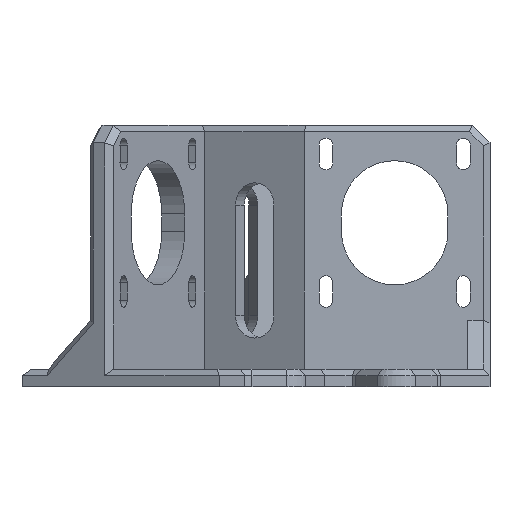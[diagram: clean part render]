
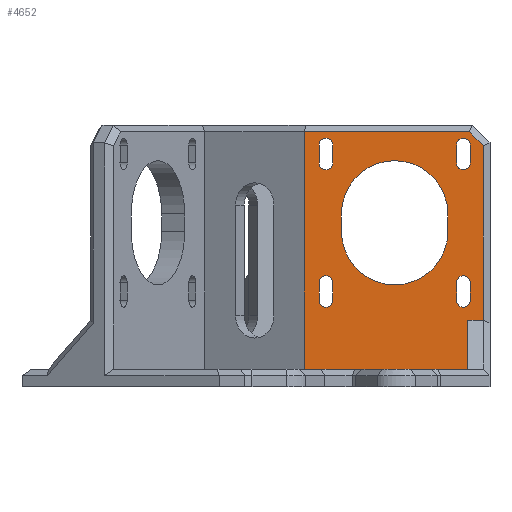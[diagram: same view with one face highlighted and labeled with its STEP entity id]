
A CAD part, left-side view. The second image highlights one B-rep face of the part: STEP entity #4652.
In plain terms, the highlighted planar face has unit normal (-1, 0, 0).
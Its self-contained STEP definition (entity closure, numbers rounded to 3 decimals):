
#125=FACE_BOUND('',#691,.T.);
#126=FACE_BOUND('',#692,.T.);
#127=FACE_BOUND('',#693,.T.);
#128=FACE_BOUND('',#694,.T.);
#129=FACE_BOUND('',#695,.T.);
#244=CIRCLE('',#4975,12.);
#245=CIRCLE('',#4976,12.);
#246=CIRCLE('',#4977,1.55);
#247=CIRCLE('',#4978,1.55);
#248=CIRCLE('',#4979,1.55);
#249=CIRCLE('',#4980,1.55);
#250=CIRCLE('',#4981,1.55);
#251=CIRCLE('',#4982,1.55);
#252=CIRCLE('',#4983,1.55);
#253=CIRCLE('',#4984,1.55);
#412=FACE_OUTER_BOUND('',#690,.T.);
#690=EDGE_LOOP('',(#3705,#3706,#3707,#3708,#3709,#3710,#3711,#3712,#3713));
#691=EDGE_LOOP('',(#3714,#3715,#3716,#3717));
#692=EDGE_LOOP('',(#3718,#3719,#3720,#3721));
#693=EDGE_LOOP('',(#3722,#3723,#3724,#3725));
#694=EDGE_LOOP('',(#3726,#3727,#3728,#3729));
#695=EDGE_LOOP('',(#3730,#3731,#3732,#3733));
#866=LINE('',#6416,#1410);
#1115=LINE('',#7063,#1659);
#1139=LINE('',#7117,#1683);
#1142=LINE('',#7123,#1686);
#1218=LINE('',#7303,#1762);
#1219=LINE('',#7305,#1763);
#1220=LINE('',#7307,#1764);
#1221=LINE('',#7309,#1765);
#1222=LINE('',#7310,#1766);
#1223=LINE('',#7315,#1767);
#1224=LINE('',#7318,#1768);
#1225=LINE('',#7323,#1769);
#1226=LINE('',#7326,#1770);
#1227=LINE('',#7331,#1771);
#1228=LINE('',#7334,#1772);
#1229=LINE('',#7337,#1773);
#1230=LINE('',#7341,#1774);
#1231=LINE('',#7345,#1775);
#1232=LINE('',#7349,#1776);
#1410=VECTOR('',#5147,10.);
#1659=VECTOR('',#5668,10.);
#1683=VECTOR('',#5716,10.);
#1686=VECTOR('',#5721,10.);
#1762=VECTOR('',#5903,10.);
#1763=VECTOR('',#5904,10.);
#1764=VECTOR('',#5905,10.);
#1765=VECTOR('',#5906,10.);
#1766=VECTOR('',#5907,10.);
#1767=VECTOR('',#5910,10.);
#1768=VECTOR('',#5913,10.);
#1769=VECTOR('',#5916,10.);
#1770=VECTOR('',#5919,10.);
#1771=VECTOR('',#5922,10.);
#1772=VECTOR('',#5925,10.);
#1773=VECTOR('',#5926,10.);
#1774=VECTOR('',#5929,10.);
#1775=VECTOR('',#5932,10.);
#1776=VECTOR('',#5935,10.);
#1954=VERTEX_POINT('',#6413);
#1955=VERTEX_POINT('',#6415);
#2192=VERTEX_POINT('',#7060);
#2193=VERTEX_POINT('',#7062);
#2207=VERTEX_POINT('',#7116);
#2209=VERTEX_POINT('',#7122);
#2253=VERTEX_POINT('',#7304);
#2254=VERTEX_POINT('',#7306);
#2255=VERTEX_POINT('',#7308);
#2256=VERTEX_POINT('',#7311);
#2257=VERTEX_POINT('',#7312);
#2258=VERTEX_POINT('',#7314);
#2259=VERTEX_POINT('',#7316);
#2260=VERTEX_POINT('',#7319);
#2261=VERTEX_POINT('',#7320);
#2262=VERTEX_POINT('',#7322);
#2263=VERTEX_POINT('',#7324);
#2264=VERTEX_POINT('',#7327);
#2265=VERTEX_POINT('',#7328);
#2266=VERTEX_POINT('',#7330);
#2267=VERTEX_POINT('',#7332);
#2268=VERTEX_POINT('',#7335);
#2269=VERTEX_POINT('',#7336);
#2270=VERTEX_POINT('',#7338);
#2271=VERTEX_POINT('',#7340);
#2272=VERTEX_POINT('',#7343);
#2273=VERTEX_POINT('',#7344);
#2274=VERTEX_POINT('',#7346);
#2275=VERTEX_POINT('',#7348);
#2375=EDGE_CURVE('',#1954,#1955,#866,.T.);
#2689=EDGE_CURVE('',#2192,#2193,#1115,.T.);
#2715=EDGE_CURVE('',#2193,#2207,#1139,.T.);
#2718=EDGE_CURVE('',#2207,#2209,#1142,.T.);
#2807=EDGE_CURVE('',#2192,#1955,#1218,.T.);
#2808=EDGE_CURVE('',#2253,#1954,#1219,.T.);
#2809=EDGE_CURVE('',#2254,#2253,#1220,.T.);
#2810=EDGE_CURVE('',#2254,#2255,#1221,.T.);
#2811=EDGE_CURVE('',#2209,#2255,#1222,.T.);
#2812=EDGE_CURVE('',#2256,#2257,#244,.T.);
#2813=EDGE_CURVE('',#2257,#2258,#1223,.T.);
#2814=EDGE_CURVE('',#2258,#2259,#245,.T.);
#2815=EDGE_CURVE('',#2259,#2256,#1224,.T.);
#2816=EDGE_CURVE('',#2260,#2261,#246,.T.);
#2817=EDGE_CURVE('',#2261,#2262,#1225,.T.);
#2818=EDGE_CURVE('',#2262,#2263,#247,.T.);
#2819=EDGE_CURVE('',#2263,#2260,#1226,.T.);
#2820=EDGE_CURVE('',#2264,#2265,#248,.T.);
#2821=EDGE_CURVE('',#2265,#2266,#1227,.T.);
#2822=EDGE_CURVE('',#2266,#2267,#249,.T.);
#2823=EDGE_CURVE('',#2267,#2264,#1228,.T.);
#2824=EDGE_CURVE('',#2268,#2269,#1229,.T.);
#2825=EDGE_CURVE('',#2269,#2270,#250,.T.);
#2826=EDGE_CURVE('',#2270,#2271,#1230,.T.);
#2827=EDGE_CURVE('',#2271,#2268,#251,.T.);
#2828=EDGE_CURVE('',#2272,#2273,#1231,.T.);
#2829=EDGE_CURVE('',#2273,#2274,#252,.T.);
#2830=EDGE_CURVE('',#2274,#2275,#1232,.T.);
#2831=EDGE_CURVE('',#2275,#2272,#253,.T.);
#3705=ORIENTED_EDGE('',*,*,#2689,.F.);
#3706=ORIENTED_EDGE('',*,*,#2807,.T.);
#3707=ORIENTED_EDGE('',*,*,#2375,.F.);
#3708=ORIENTED_EDGE('',*,*,#2808,.F.);
#3709=ORIENTED_EDGE('',*,*,#2809,.F.);
#3710=ORIENTED_EDGE('',*,*,#2810,.T.);
#3711=ORIENTED_EDGE('',*,*,#2811,.F.);
#3712=ORIENTED_EDGE('',*,*,#2718,.F.);
#3713=ORIENTED_EDGE('',*,*,#2715,.F.);
#3714=ORIENTED_EDGE('',*,*,#2812,.T.);
#3715=ORIENTED_EDGE('',*,*,#2813,.T.);
#3716=ORIENTED_EDGE('',*,*,#2814,.T.);
#3717=ORIENTED_EDGE('',*,*,#2815,.T.);
#3718=ORIENTED_EDGE('',*,*,#2816,.T.);
#3719=ORIENTED_EDGE('',*,*,#2817,.T.);
#3720=ORIENTED_EDGE('',*,*,#2818,.T.);
#3721=ORIENTED_EDGE('',*,*,#2819,.T.);
#3722=ORIENTED_EDGE('',*,*,#2820,.T.);
#3723=ORIENTED_EDGE('',*,*,#2821,.T.);
#3724=ORIENTED_EDGE('',*,*,#2822,.T.);
#3725=ORIENTED_EDGE('',*,*,#2823,.T.);
#3726=ORIENTED_EDGE('',*,*,#2824,.T.);
#3727=ORIENTED_EDGE('',*,*,#2825,.T.);
#3728=ORIENTED_EDGE('',*,*,#2826,.T.);
#3729=ORIENTED_EDGE('',*,*,#2827,.T.);
#3730=ORIENTED_EDGE('',*,*,#2828,.T.);
#3731=ORIENTED_EDGE('',*,*,#2829,.T.);
#3732=ORIENTED_EDGE('',*,*,#2830,.T.);
#3733=ORIENTED_EDGE('',*,*,#2831,.T.);
#4446=PLANE('',#4974);
#4652=ADVANCED_FACE('',(#412,#125,#126,#127,#128,#129),#4446,.F.);
#4974=AXIS2_PLACEMENT_3D('',#7302,#5901,#5902);
#4975=AXIS2_PLACEMENT_3D('',#7313,#5908,#5909);
#4976=AXIS2_PLACEMENT_3D('',#7317,#5911,#5912);
#4977=AXIS2_PLACEMENT_3D('',#7321,#5914,#5915);
#4978=AXIS2_PLACEMENT_3D('',#7325,#5917,#5918);
#4979=AXIS2_PLACEMENT_3D('',#7329,#5920,#5921);
#4980=AXIS2_PLACEMENT_3D('',#7333,#5923,#5924);
#4981=AXIS2_PLACEMENT_3D('',#7339,#5927,#5928);
#4982=AXIS2_PLACEMENT_3D('',#7342,#5930,#5931);
#4983=AXIS2_PLACEMENT_3D('',#7347,#5933,#5934);
#4984=AXIS2_PLACEMENT_3D('',#7350,#5936,#5937);
#5147=DIRECTION('',(0.,1.,0.));
#5668=DIRECTION('',(0.,-1.,0.));
#5716=DIRECTION('',(0.,-0.707,-0.707));
#5721=DIRECTION('',(0.,0.,-1.));
#5901=DIRECTION('center_axis',(1.,0.,0.));
#5902=DIRECTION('ref_axis',(0.,1.,0.));
#5903=DIRECTION('',(0.,0.,-1.));
#5904=DIRECTION('',(0.,0.,1.));
#5905=DIRECTION('',(0.,1.,0.));
#5906=DIRECTION('',(0.,0.,1.));
#5907=DIRECTION('',(0.,1.,0.));
#5908=DIRECTION('center_axis',(1.,0.,0.));
#5909=DIRECTION('ref_axis',(0.,-1.,0.));
#5910=DIRECTION('',(0.,0.,-1.));
#5911=DIRECTION('center_axis',(1.,0.,0.));
#5912=DIRECTION('ref_axis',(0.,1.,0.));
#5913=DIRECTION('',(0.,0.,1.));
#5914=DIRECTION('center_axis',(1.,0.,0.));
#5915=DIRECTION('ref_axis',(0.,-1.,0.));
#5916=DIRECTION('',(0.,0.,1.));
#5917=DIRECTION('center_axis',(1.,0.,0.));
#5918=DIRECTION('ref_axis',(0.,1.,0.));
#5919=DIRECTION('',(0.,0.,-1.));
#5920=DIRECTION('center_axis',(1.,0.,0.));
#5921=DIRECTION('ref_axis',(0.,-1.,0.));
#5922=DIRECTION('',(0.,0.,1.));
#5923=DIRECTION('center_axis',(1.,0.,0.));
#5924=DIRECTION('ref_axis',(0.,1.,0.));
#5925=DIRECTION('',(0.,0.,-1.));
#5926=DIRECTION('',(0.,0.,1.));
#5927=DIRECTION('center_axis',(1.,0.,0.));
#5928=DIRECTION('ref_axis',(0.,1.,0.));
#5929=DIRECTION('',(0.,0.,-1.));
#5930=DIRECTION('center_axis',(1.,0.,0.));
#5931=DIRECTION('ref_axis',(0.,-1.,0.));
#5932=DIRECTION('',(0.,0.,1.));
#5933=DIRECTION('center_axis',(1.,0.,0.));
#5934=DIRECTION('ref_axis',(0.,-1.,0.));
#5935=DIRECTION('',(0.,0.,-1.));
#5936=DIRECTION('center_axis',(1.,0.,0.));
#5937=DIRECTION('ref_axis',(0.,1.,0.));
#6413=CARTESIAN_POINT('',(-29.4,4.8,67.));
#6415=CARTESIAN_POINT('',(-29.4,9.664,67.));
#6416=CARTESIAN_POINT('',(-29.4,2.75,67.));
#7060=CARTESIAN_POINT('',(-29.4,9.664,120.5));
#7062=CARTESIAN_POINT('',(-29.4,-27.579,120.5));
#7063=CARTESIAN_POINT('',(-29.4,-2.46,120.5));
#7116=CARTESIAN_POINT('',(-29.4,-30.7,117.379));
#7117=CARTESIAN_POINT('',(-29.4,-42.639,105.439));
#7122=CARTESIAN_POINT('',(-29.4,-30.7,78.));
#7123=CARTESIAN_POINT('',(-29.4,-30.7,63.));
#7302=CARTESIAN_POINT('Origin',(-29.4,-27.2,63.));
#7303=CARTESIAN_POINT('',(-29.4,9.664,92.5));
#7304=CARTESIAN_POINT('',(-29.4,4.8,63.));
#7305=CARTESIAN_POINT('',(-29.4,4.8,63.));
#7306=CARTESIAN_POINT('',(-29.4,-27.2,63.));
#7307=CARTESIAN_POINT('',(-29.4,-18.05,63.));
#7308=CARTESIAN_POINT('',(-29.4,-27.2,78.));
#7309=CARTESIAN_POINT('',(-29.4,-27.2,63.));
#7310=CARTESIAN_POINT('',(-29.4,-18.05,78.));
#7311=CARTESIAN_POINT('',(-29.4,1.3,102.));
#7312=CARTESIAN_POINT('',(-29.4,-22.7,102.));
#7313=CARTESIAN_POINT('Origin',(-29.4,-10.7,102.));
#7314=CARTESIAN_POINT('',(-29.4,-22.7,98.));
#7315=CARTESIAN_POINT('',(-29.4,-22.7,82.5));
#7316=CARTESIAN_POINT('',(-29.4,1.3,98.));
#7317=CARTESIAN_POINT('Origin',(-29.4,-10.7,98.));
#7318=CARTESIAN_POINT('',(-29.4,1.3,80.5));
#7319=CARTESIAN_POINT('',(-29.4,3.25,82.5));
#7320=CARTESIAN_POINT('',(-29.4,6.35,82.5));
#7321=CARTESIAN_POINT('Origin',(-29.4,4.8,82.5));
#7322=CARTESIAN_POINT('',(-29.4,6.35,86.5));
#7323=CARTESIAN_POINT('',(-29.4,6.35,72.75));
#7324=CARTESIAN_POINT('',(-29.4,3.25,86.5));
#7325=CARTESIAN_POINT('Origin',(-29.4,4.8,86.5));
#7326=CARTESIAN_POINT('',(-29.4,3.25,74.75));
#7327=CARTESIAN_POINT('',(-29.4,-27.75,113.5));
#7328=CARTESIAN_POINT('',(-29.4,-24.65,113.5));
#7329=CARTESIAN_POINT('Origin',(-29.4,-26.2,113.5));
#7330=CARTESIAN_POINT('',(-29.4,-24.65,117.5));
#7331=CARTESIAN_POINT('',(-29.4,-24.65,88.25));
#7332=CARTESIAN_POINT('',(-29.4,-27.75,117.5));
#7333=CARTESIAN_POINT('Origin',(-29.4,-26.2,117.5));
#7334=CARTESIAN_POINT('',(-29.4,-27.75,90.25));
#7335=CARTESIAN_POINT('',(-29.4,6.35,113.5));
#7336=CARTESIAN_POINT('',(-29.4,6.35,117.5));
#7337=CARTESIAN_POINT('',(-29.4,6.35,88.25));
#7338=CARTESIAN_POINT('',(-29.4,3.25,117.5));
#7339=CARTESIAN_POINT('Origin',(-29.4,4.8,117.5));
#7340=CARTESIAN_POINT('',(-29.4,3.25,113.5));
#7341=CARTESIAN_POINT('',(-29.4,3.25,90.25));
#7342=CARTESIAN_POINT('Origin',(-29.4,4.8,113.5));
#7343=CARTESIAN_POINT('',(-29.4,-24.65,82.5));
#7344=CARTESIAN_POINT('',(-29.4,-24.65,86.5));
#7345=CARTESIAN_POINT('',(-29.4,-24.65,72.75));
#7346=CARTESIAN_POINT('',(-29.4,-27.75,86.5));
#7347=CARTESIAN_POINT('Origin',(-29.4,-26.2,86.5));
#7348=CARTESIAN_POINT('',(-29.4,-27.75,82.5));
#7349=CARTESIAN_POINT('',(-29.4,-27.75,74.75));
#7350=CARTESIAN_POINT('Origin',(-29.4,-26.2,82.5));
